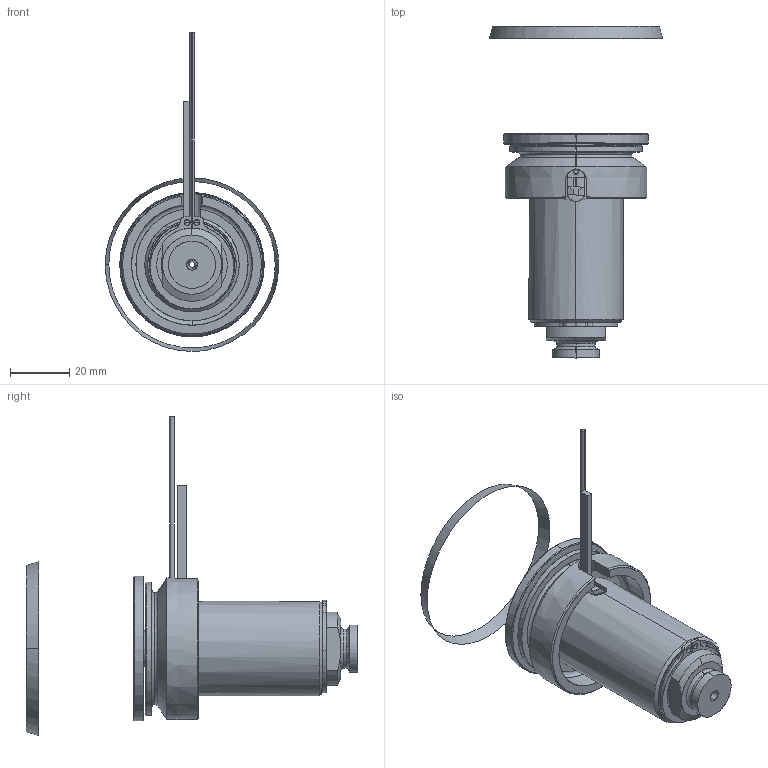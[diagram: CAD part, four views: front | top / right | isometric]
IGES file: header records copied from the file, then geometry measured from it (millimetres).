
Start section: SolidWorks IGES file using analytic representation for surfaces
Global section: file name: C:\Documents and Settings\ws-20\Desktop\TEMPORANEA\UGBE5001-S-A-5 [Ød-2.0 P-0 ØC-12].IGS; native system: SolidWorks 2012; preprocessor: SolidWorks 2012; author: ws-20; date: 120306.144853; units: millimetre
Bounding box: 58.79 x 112.44 x 108.04 mm (x, y, z)
Surface area: 31604.6 mm2 (no closed solid volume)
Topology: 0 solids, 0 shells, 113 faces, 2184 edges, 2184 vertices
Faces by surface type: revolution 68, bspline 45
